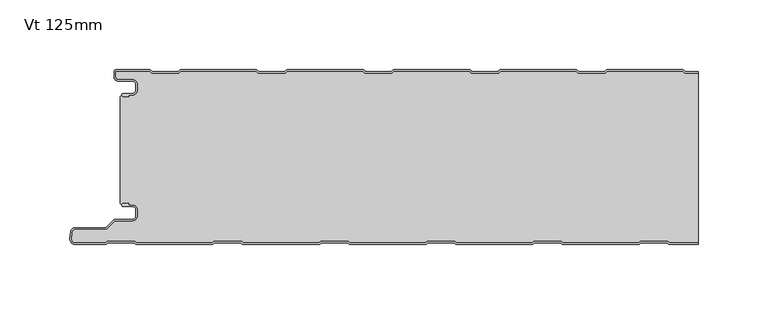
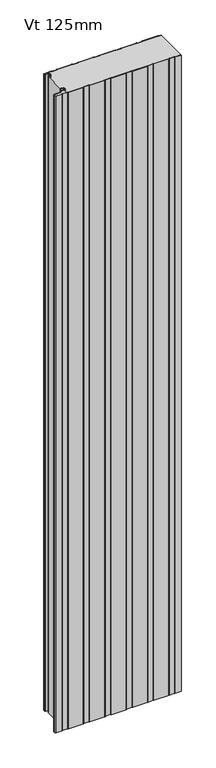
"""IFC4 building model written with IfcOpenShell, lengths in millimetres: plate geometry, KIP-MEX-KSS-1067-R19-CP-Vt-SL_SL : Vt 125mm."""

from ifc_helpers import new_model, si_unit, point, frame, frame_2d, origin, origin_with_axes, place, context, project, spatial, polyline, circle_curve, trimmed, segment, composite_curve, outline, extrude, source, transform, mapped, element, save
from ifc_brep_helpers import plane_surface, cylinder_surface, revolved_surface, advanced_brep


def vt_125mm_fb1efc63(model_context):
    return source(origin(), model_context, "Body", "SolidModel", [
        advanced_brep(
        [(-204.468691, -17.0015159, 2400.0), (-205.4686883, -18.0015191, 2400.0), (-204.468691, -19.0015105, 2400.0), (-200.4684874, -19.0015105, 2400.0), (-200.4684874, -18.0015159, 2400.0), (-197.7762776, -18.0015159, 2400.0), (-194.4762819, -14.7015202, 2400.0), (-194.4762819, -10.301529, 2400.0), (-197.7762774, -7.0015335, 2400.0), (-208.1962563, -7.0015335, 2400.0), (-209.9662505, -5.2315393, 2400.0), (-209.9662505, -0.9999916, 2400.0), (-185.4659738, -0.9999916, 2400.0), (-184.0803312, -2.2002307, 2400.0), (-164.7051649, -2.2002307, 2400.0), (-163.319532, -1.0, 2400.0), (-109.2661166, -1.0, 2400.0), (-107.8804836, -2.2002307, 2400.0), (-88.5053173, -2.2002307, 2400.0), (-87.1196844, -1.0, 2400.0), (-33.066269, -1.0, 2400.0), (-31.680636, -2.2002307, 2400.0), (-12.3054697, -2.2002307, 2400.0), (-10.9198368, -1.0, 2400.0), (43.1335786, -1.0, 2400.0), (44.5192116, -2.2002307, 2400.0), (63.8943779, -2.2002307, 2400.0), (65.2800108, -1.0, 2400.0), (119.3334262, -1.0, 2400.0), (120.7190592, -2.2002307, 2400.0), (140.0942255, -2.2002307, 2400.0), (141.4798584, -1.0, 2400.0), (195.5332738, -1.0, 2400.0), (196.9189068, -2.2002307, 2400.0), (206.4999998, -2.2002307, 2400.0), (206.4999998, -1.2002307, 2400.0), (197.2917872, -1.2002307, 2400.0), (196.3007396, -0.3417885, 2400.0), (195.3841227, 0.0, 2400.0), (141.6290096, 0.0, 2400.0), (140.7123927, -0.3417885, 2400.0), (139.7213451, -1.2002307, 2400.0), (121.0919396, -1.2002307, 2400.0), (120.100892, -0.3417885, 2400.0), (119.1842751, 0.0, 2400.0), (65.429162, 0.0, 2400.0), (64.5125451, -0.3417885, 2400.0), (63.5214975, -1.2002307, 2400.0), (44.892092, -1.2002307, 2400.0), (43.9010444, -0.3417885, 2400.0), (42.9844275, 0.0, 2400.0), (-10.7706856, 0.0, 2400.0), (-11.6873025, -0.3417885, 2400.0), (-12.6783501, -1.2002307, 2400.0), (-31.3077556, -1.2002307, 2400.0), (-32.2988032, -0.3417885, 2400.0), (-33.2154201, 0.0, 2400.0), (-86.9705332, 0.0, 2400.0), (-87.8871501, -0.3417885, 2400.0), (-88.8781977, -1.2002307, 2400.0), (-107.5076032, -1.2002307, 2400.0), (-108.4986508, -0.3417885, 2400.0), (-109.4152677, 0.0, 2400.0), (-163.1703808, 0.0, 2400.0), (-164.0869977, -0.3417885, 2400.0), (-165.0780453, -1.2002307, 2400.0), (-183.7074508, -1.2002307, 2400.0), (-184.6984984, -0.3417885, 2400.0), (-185.6152067, 0.0, 2400.0), (-209.5662543, 8.4e-06, 2400.0), (-210.9662505, -1.3999878, 2400.0), (-210.9662505, -5.2315393, 2400.0), (-208.1962563, -8.0015335, 2400.0), (-197.7762774, -8.0015335, 2400.0), (-195.4762819, -10.301529, 2400.0), (-195.4762819, -14.7015202, 2400.0), (-197.7762776, -17.0015159, 2400.0), (-204.468691, -17.0015159, 0.0), (-197.7762776, -17.0015159, 0.0), (-195.4762819, -14.7015202, 0.0), (-195.4762819, -10.301529, 0.0), (-197.7762774, -8.0015335, 0.0), (-208.1962563, -8.0015335, 0.0), (-210.9662505, -5.2315393, 0.0), (-210.9662505, -1.3999878, 0.0), (-209.5662543, 8.4e-06, 0.0), (-185.6151153, 8.4e-06, 0.0), (-184.6984984, -0.3417885, 0.0), (-183.7074508, -1.2002307, 0.0), (-165.0780453, -1.2002307, 0.0), (-164.0869977, -0.3417885, 0.0), (-163.1703808, 0.0, 0.0), (-109.4152677, 0.0, 0.0), (-108.4986508, -0.3417885, 0.0), (-107.5076032, -1.2002307, 0.0), (-88.8781977, -1.2002307, 0.0), (-87.8871501, -0.3417885, 0.0), (-86.9705332, 0.0, 0.0), (-33.2154201, 0.0, 0.0), (-32.2988032, -0.3417885, 0.0), (-31.3077556, -1.2002307, 0.0), (-12.6783501, -1.2002307, 0.0), (-11.6873025, -0.3417885, 0.0), (-10.7706856, 0.0, 0.0), (42.9844275, 0.0, 0.0), (43.9010444, -0.3417885, 0.0), (44.892092, -1.2002307, 0.0), (63.5214975, -1.2002307, 0.0), (64.5125451, -0.3417885, 0.0), (65.429162, 0.0, 0.0), (119.1842751, 0.0, 0.0), (120.100892, -0.3417885, 0.0), (121.0919396, -1.2002307, 0.0), (139.7213451, -1.2002307, 0.0), (140.7123927, -0.3417885, 0.0), (141.6290096, 0.0, 0.0), (195.3841227, 0.0, 0.0), (196.3007396, -0.3417885, 0.0), (197.2917872, -1.2002307, 0.0), (206.4999998, -1.2002307, 0.0), (206.4999998, -2.2002307, 0.0), (196.9189068, -2.2002307, 0.0), (195.5332738, -1.0, 0.0), (141.4798584, -1.0, 0.0), (140.0942255, -2.2002307, 0.0), (120.7190592, -2.2002307, 0.0), (119.3334262, -1.0, 0.0), (65.2800108, -1.0, 0.0), (63.8943779, -2.2002307, 0.0), (44.5192116, -2.2002307, 0.0), (43.1335786, -1.0, 0.0), (-10.9198368, -1.0, 0.0), (-12.3054697, -2.2002307, 0.0), (-31.680636, -2.2002307, 0.0), (-33.066269, -1.0, 0.0), (-87.1196844, -1.0, 0.0), (-88.5053173, -2.2002307, 0.0), (-107.8804836, -2.2002307, 0.0), (-109.2661166, -1.0, 0.0), (-163.319532, -1.0, 0.0), (-164.7051649, -2.2002307, 0.0), (-184.0803312, -2.2002307, 0.0), (-185.4659738, -0.9999916, 0.0), (-209.9662505, -0.9999916, 0.0), (-209.9662505, -5.2315393, 0.0), (-208.1962563, -7.0015335, 0.0), (-197.7762774, -7.0015335, 0.0), (-194.4762819, -10.301529, 0.0), (-194.4762819, -14.7015202, 0.0), (-197.7762776, -18.0015159, 0.0), (-200.4684874, -18.0015159, 0.0), (-200.4684874, -19.0015105, 0.0), (-204.468691, -19.0015105, 0.0), (-205.4686882, -18.0015192, 0.0)],
        [
            (0, 1, circle_curve(frame((-204.468691, -18.0015132, 2400.0), z_axis=(0.0, 0.0, 1.0), x_axis=(1.0, 0.0, 0.0)), 0.9999973)),
            (1, 2, circle_curve(frame((-204.468691, -18.0015133, 2400.0), z_axis=(0.0, 0.0, 1.0), x_axis=(1.0, 0.0, 0.0)), 0.9999972)),
            (2, 3),
            (3, 4),
            (4, 5),
            (5, 6, circle_curve(frame((-197.7762776, -14.7015202, 2400.0), z_axis=(0.0, 0.0, 1.0), x_axis=(1.0, 0.0, 0.0)), 3.2999957)),
            (6, 7),
            (7, 8, circle_curve(frame((-197.7762774, -10.301529, 2400.0), z_axis=(0.0, 0.0, 1.0), x_axis=(1.0, 0.0, 0.0)), 3.2999955)),
            (8, 9),
            (9, 10, circle_curve(frame((-208.1962563, -5.2315393, 2400.0), z_axis=(0.0, 0.0, -1.0), x_axis=(1.0, 0.0, 0.0)), 1.7699942)),
            (10, 11),
            (11, 12),
            (12, 13),
            (13, 14),
            (14, 15),
            (15, 16),
            (16, 17),
            (17, 18),
            (18, 19),
            (19, 20),
            (20, 21),
            (21, 22),
            (22, 23),
            (23, 24),
            (24, 25),
            (25, 26),
            (26, 27),
            (27, 28),
            (28, 29),
            (29, 30),
            (30, 31),
            (31, 32),
            (32, 33),
            (33, 34),
            (34, 35),
            (35, 36),
            (36, 37),
            (37, 38, circle_curve(frame((195.3841227, -1.3999972, 2400.0), z_axis=(0.0, 0.0, 1.0), x_axis=(1.0, 0.0, 0.0)), 1.3999972)),
            (38, 39),
            (39, 40, circle_curve(frame((141.6290096, -1.3999972, 2400.0), z_axis=(0.0, 0.0, 1.0), x_axis=(1.0, 0.0, 0.0)), 1.3999972)),
            (40, 41),
            (41, 42),
            (42, 43),
            (43, 44, circle_curve(frame((119.1842751, -1.3999972, 2400.0), z_axis=(0.0, 0.0, 1.0), x_axis=(1.0, 0.0, 0.0)), 1.3999972)),
            (44, 45),
            (45, 46, circle_curve(frame((65.429162, -1.3999972, 2400.0), z_axis=(0.0, 0.0, 1.0), x_axis=(1.0, 0.0, 0.0)), 1.3999972)),
            (46, 47),
            (47, 48),
            (48, 49),
            (49, 50, circle_curve(frame((42.9844275, -1.3999972, 2400.0), z_axis=(0.0, 0.0, 1.0), x_axis=(1.0, 0.0, 0.0)), 1.3999972)),
            (50, 51),
            (51, 52, circle_curve(frame((-10.7706856, -1.3999972, 2400.0), z_axis=(0.0, 0.0, 1.0), x_axis=(1.0, 0.0, 0.0)), 1.3999972)),
            (52, 53),
            (53, 54),
            (54, 55),
            (55, 56, circle_curve(frame((-33.2154201, -1.3999972, 2400.0), z_axis=(0.0, 0.0, 1.0), x_axis=(1.0, 0.0, 0.0)), 1.3999972)),
            (56, 57),
            (57, 58, circle_curve(frame((-86.9705332, -1.3999972, 2400.0), z_axis=(0.0, 0.0, 1.0), x_axis=(1.0, 0.0, 0.0)), 1.3999972)),
            (58, 59),
            (59, 60),
            (60, 61),
            (61, 62, circle_curve(frame((-109.4152677, -1.3999972, 2400.0), z_axis=(0.0, 0.0, 1.0), x_axis=(1.0, 0.0, 0.0)), 1.3999972)),
            (62, 63),
            (63, 64, circle_curve(frame((-163.1703808, -1.3999972, 2400.0), z_axis=(0.0, 0.0, 1.0), x_axis=(1.0, 0.0, 0.0)), 1.3999972)),
            (64, 65),
            (65, 66),
            (66, 67),
            (67, 68, circle_curve(frame((-185.6151153, -1.3999972, 2400.0), z_axis=(0.0, 0.0, 1.0), x_axis=(1.0, 0.0, 0.0)), 1.3999972)),
            (68, 69),
            (69, 70, circle_curve(frame((-209.5662543, -1.3999878, 2400.0), z_axis=(0.0, 0.0, 1.0), x_axis=(1.0, 0.0, 0.0)), 1.3999962)),
            (70, 71),
            (71, 72, circle_curve(frame((-208.1962563, -5.2315393, 2400.0), z_axis=(0.0, 0.0, 1.0), x_axis=(1.0, 0.0, 0.0)), 2.7699942)),
            (72, 73),
            (73, 74, circle_curve(frame((-197.7762774, -10.301529, 2400.0), z_axis=(0.0, 0.0, -1.0), x_axis=(1.0, 0.0, 0.0)), 2.2999955)),
            (74, 75),
            (75, 76, circle_curve(frame((-197.7762776, -14.7015202, 2400.0), z_axis=(0.0, 0.0, -1.0), x_axis=(1.0, 0.0, 0.0)), 2.2999957)),
            (76, 0),
            (77, 78),
            (78, 79, circle_curve(frame((-197.7762776, -14.7015202, 0.0), z_axis=(0.0, 0.0, 1.0), x_axis=(1.0, 0.0, 0.0)), 2.2999957)),
            (79, 80),
            (80, 81, circle_curve(frame((-197.7762774, -10.301529, 0.0), z_axis=(0.0, 0.0, 1.0), x_axis=(1.0, 0.0, 0.0)), 2.2999955)),
            (81, 82),
            (82, 83, circle_curve(frame((-208.1962563, -5.2315393, 0.0), z_axis=(0.0, 0.0, -1.0), x_axis=(1.0, 0.0, 0.0)), 2.7699942)),
            (83, 84),
            (84, 85, circle_curve(frame((-209.5662543, -1.3999878, 0.0), z_axis=(0.0, 0.0, -1.0), x_axis=(1.0, 0.0, 0.0)), 1.3999962)),
            (85, 86),
            (86, 87, circle_curve(frame((-185.6151153, -1.3999972, 0.0), z_axis=(0.0, 0.0, -1.0), x_axis=(1.0, 0.0, 0.0)), 1.3999972)),
            (87, 88),
            (88, 89),
            (89, 90),
            (90, 91, circle_curve(frame((-163.1703808, -1.3999972, 0.0), z_axis=(0.0, 0.0, -1.0), x_axis=(1.0, 0.0, 0.0)), 1.3999972)),
            (91, 92),
            (92, 93, circle_curve(frame((-109.4152677, -1.3999972, 0.0), z_axis=(0.0, 0.0, -1.0), x_axis=(1.0, 0.0, 0.0)), 1.3999972)),
            (93, 94),
            (94, 95),
            (95, 96),
            (96, 97, circle_curve(frame((-86.9705332, -1.3999972, 0.0), z_axis=(0.0, 0.0, -1.0), x_axis=(1.0, 0.0, 0.0)), 1.3999972)),
            (97, 98),
            (98, 99, circle_curve(frame((-33.2154201, -1.3999972, 0.0), z_axis=(0.0, 0.0, -1.0), x_axis=(1.0, 0.0, 0.0)), 1.3999972)),
            (99, 100),
            (100, 101),
            (101, 102),
            (102, 103, circle_curve(frame((-10.7706856, -1.3999972, 0.0), z_axis=(0.0, 0.0, -1.0), x_axis=(1.0, 0.0, 0.0)), 1.3999972)),
            (103, 104),
            (104, 105, circle_curve(frame((42.9844275, -1.3999972, 0.0), z_axis=(0.0, 0.0, -1.0), x_axis=(1.0, 0.0, 0.0)), 1.3999972)),
            (105, 106),
            (106, 107),
            (107, 108),
            (108, 109, circle_curve(frame((65.429162, -1.3999972, 0.0), z_axis=(0.0, 0.0, -1.0), x_axis=(1.0, 0.0, 0.0)), 1.3999972)),
            (109, 110),
            (110, 111, circle_curve(frame((119.1842751, -1.3999972, 0.0), z_axis=(0.0, 0.0, -1.0), x_axis=(1.0, 0.0, 0.0)), 1.3999972)),
            (111, 112),
            (112, 113),
            (113, 114),
            (114, 115, circle_curve(frame((141.6290096, -1.3999972, 0.0), z_axis=(0.0, 0.0, -1.0), x_axis=(1.0, 0.0, 0.0)), 1.3999972)),
            (115, 116),
            (116, 117, circle_curve(frame((195.3841227, -1.3999972, 0.0), z_axis=(0.0, 0.0, -1.0), x_axis=(1.0, 0.0, 0.0)), 1.3999972)),
            (117, 118),
            (118, 119),
            (119, 120),
            (120, 121),
            (121, 122),
            (122, 123),
            (123, 124),
            (124, 125),
            (125, 126),
            (126, 127),
            (127, 128),
            (128, 129),
            (129, 130),
            (130, 131),
            (131, 132),
            (132, 133),
            (133, 134),
            (134, 135),
            (135, 136),
            (136, 137),
            (137, 138),
            (138, 139),
            (139, 140),
            (140, 141),
            (141, 142),
            (142, 143),
            (143, 144),
            (144, 145, circle_curve(frame((-208.1962563, -5.2315393, 0.0), z_axis=(0.0, 0.0, 1.0), x_axis=(1.0, 0.0, 0.0)), 1.7699942)),
            (145, 146),
            (146, 147, circle_curve(frame((-197.7762774, -10.301529, 0.0), z_axis=(0.0, 0.0, -1.0), x_axis=(1.0, 0.0, 0.0)), 3.2999955)),
            (147, 148),
            (148, 149, circle_curve(frame((-197.7762776, -14.7015202, 0.0), z_axis=(0.0, 0.0, -1.0), x_axis=(1.0, 0.0, 0.0)), 3.2999957)),
            (149, 150),
            (150, 151),
            (151, 152),
            (152, 153, circle_curve(frame((-204.468691, -18.0015133, 0.0), z_axis=(0.0, 0.0, -1.0), x_axis=(1.0, 0.0, 0.0)), 0.9999972)),
            (153, 77, circle_curve(frame((-204.468691, -18.0015132, 0.0), z_axis=(0.0, 0.0, -1.0), x_axis=(1.0, 0.0, 0.0)), 0.9999973)),
            (76, 78),
            (77, 0),
            (75, 79),
            (74, 80),
            (73, 81),
            (72, 82),
            (71, 83),
            (70, 84),
            (69, 85),
            (68, 86),
            (67, 87),
            (66, 88),
            (65, 89),
            (64, 90),
            (63, 91),
            (62, 92),
            (61, 93),
            (60, 94),
            (59, 95),
            (58, 96),
            (57, 97),
            (56, 98),
            (55, 99),
            (54, 100),
            (53, 101),
            (52, 102),
            (51, 103),
            (50, 104),
            (49, 105),
            (48, 106),
            (47, 107),
            (46, 108),
            (45, 109),
            (44, 110),
            (43, 111),
            (42, 112),
            (41, 113),
            (40, 114),
            (39, 115),
            (38, 116),
            (37, 117),
            (36, 118),
            (35, 119),
            (120, 34),
            (33, 121),
            (32, 122),
            (31, 123),
            (30, 124),
            (29, 125),
            (28, 126),
            (27, 127),
            (26, 128),
            (25, 129),
            (24, 130),
            (23, 131),
            (22, 132),
            (21, 133),
            (20, 134),
            (19, 135),
            (18, 136),
            (17, 137),
            (16, 138),
            (15, 139),
            (14, 140),
            (13, 141),
            (12, 142),
            (11, 143),
            (10, 144),
            (9, 145),
            (8, 146),
            (7, 147),
            (6, 148),
            (5, 149),
            (4, 150),
            (3, 151),
            (2, 152),
            (1, 153),
        ],
        [
            plane_surface(frame((326.9000002, 0.0, 2400.0), z_axis=(0.0, 0.0, 1.0), x_axis=(0.0, 1.0, 0.0))),
            plane_surface(frame((326.9000002, 0.0, 0.0), z_axis=(0.0, 0.0, -1.0), x_axis=(0.0, 1.0, 0.0))),
            plane_surface(frame((-204.468691, -17.0015159, 2400.0), z_axis=(0.0, 1.0, 0.0), x_axis=(0.0, 0.0, -1.0))),
            revolved_surface(polyline([(-195.47628189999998, -14.7015202, 0.0), (-195.47628189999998, -14.7015202, 2400.0)]), (-197.7762776, -14.7015202, 2400.0), (0.0, 0.0, -1.0)),
            plane_surface(frame((-195.4762819, -14.7015202, 2400.0), z_axis=(-1.0, 0.0, 0.0), x_axis=(0.0, 0.0, -1.0))),
            revolved_surface(polyline([(-195.4762819, -10.301529, 0.0), (-195.4762819, -10.301529, 2400.0)]), (-197.7762774, -10.301529, 2400.0), (0.0, 0.0, -1.0)),
            plane_surface(frame((-197.7762774, -8.0015335, 2400.0), z_axis=(0.0, -1.0, 0.0), x_axis=(0.0, 0.0, -1.0))),
            cylinder_surface(frame((-208.1962563, -5.2315393, 2400.0), z_axis=(0.0, 0.0, 1.0), x_axis=(1.0, 0.0, 0.0)), 2.7699942),
            plane_surface(frame((-210.9662505, -5.2315393, 2400.0), z_axis=(-1.0, 0.0, 0.0), x_axis=(0.0, 0.0, -1.0))),
            cylinder_surface(frame((-209.5662543, -1.3999878, 2400.0), z_axis=(0.0, 0.0, 1.0), x_axis=(1.0, 0.0, 0.0)), 1.3999962),
            plane_surface(frame((-209.5662543, 8.4e-06, 2400.0), z_axis=(0.0, 1.0, 0.0), x_axis=(0.0, 0.0, -1.0))),
            cylinder_surface(frame((-185.6151153, -1.3999972, 2400.0), z_axis=(0.0, 0.0, 1.0), x_axis=(1.0, 0.0, 0.0)), 1.3999972),
            plane_surface(frame((-184.6984984, -0.3417885, 2400.0), z_axis=(0.6547276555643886, 0.755864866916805, 0.0), x_axis=(0.0, 0.0, -1.0))),
            plane_surface(frame((-174.3927481, -1.2002307, 2400.0), z_axis=(0.0, 1.0, 0.0), x_axis=(0.0, 0.0, -1.0))),
            plane_surface(frame((-165.0780453, -1.2002307, 2400.0), z_axis=(-0.6547276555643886, 0.755864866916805, 0.0), x_axis=(0.0, 0.0, -1.0))),
            cylinder_surface(frame((-163.1703808, -1.3999972, 2400.0), z_axis=(0.0, 0.0, 1.0), x_axis=(1.0, 0.0, 0.0)), 1.3999972),
            plane_surface(frame((-163.1703808, 0.0, 2400.0), z_axis=(0.0, 1.0, 0.0), x_axis=(0.0, 0.0, -1.0))),
            cylinder_surface(frame((-109.4152677, -1.3999972, 2400.0), z_axis=(0.0, 0.0, 1.0), x_axis=(1.0, 0.0, 0.0)), 1.3999972),
            plane_surface(frame((-108.4986508, -0.3417885, 2400.0), z_axis=(0.6547276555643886, 0.755864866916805, 0.0), x_axis=(0.0, 0.0, -1.0))),
            plane_surface(frame((-98.1929005, -1.2002307, 2400.0), z_axis=(0.0, 1.0, 0.0), x_axis=(0.0, 0.0, -1.0))),
            plane_surface(frame((-88.8781977, -1.2002307, 2400.0), z_axis=(-0.6547276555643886, 0.755864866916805, 0.0), x_axis=(0.0, 0.0, -1.0))),
            cylinder_surface(frame((-86.9705332, -1.3999972, 2400.0), z_axis=(0.0, 0.0, 1.0), x_axis=(1.0, 0.0, 0.0)), 1.3999972),
            plane_surface(frame((-86.9705332, 0.0, 2400.0), z_axis=(0.0, 1.0, 0.0), x_axis=(0.0, 0.0, -1.0))),
            cylinder_surface(frame((-33.2154201, -1.3999972, 2400.0), z_axis=(0.0, 0.0, 1.0), x_axis=(1.0, 0.0, 0.0)), 1.3999972),
            plane_surface(frame((-32.2988032, -0.3417885, 2400.0), z_axis=(0.6547276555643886, 0.755864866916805, 0.0), x_axis=(0.0, 0.0, -1.0))),
            plane_surface(frame((-21.9930529, -1.2002307, 2400.0), z_axis=(0.0, 1.0, 0.0), x_axis=(0.0, 0.0, -1.0))),
            plane_surface(frame((-12.6783501, -1.2002307, 2400.0), z_axis=(-0.6547276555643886, 0.755864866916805, 0.0), x_axis=(0.0, 0.0, -1.0))),
            cylinder_surface(frame((-10.7706856, -1.3999972, 2400.0), z_axis=(0.0, 0.0, 1.0), x_axis=(1.0, 0.0, 0.0)), 1.3999972),
            plane_surface(frame((-10.7706856, 0.0, 2400.0), z_axis=(0.0, 1.0, 0.0), x_axis=(0.0, 0.0, -1.0))),
            cylinder_surface(frame((42.9844275, -1.3999972, 2400.0), z_axis=(0.0, 0.0, 1.0), x_axis=(1.0, 0.0, 0.0)), 1.3999972),
            plane_surface(frame((43.9010444, -0.3417885, 2400.0), z_axis=(0.6547276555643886, 0.755864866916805, 0.0), x_axis=(0.0, 0.0, -1.0))),
            plane_surface(frame((54.2067947, -1.2002307, 2400.0), z_axis=(0.0, 1.0, 0.0), x_axis=(0.0, 0.0, -1.0))),
            plane_surface(frame((63.5214975, -1.2002307, 2400.0), z_axis=(-0.6547276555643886, 0.755864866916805, 0.0), x_axis=(0.0, 0.0, -1.0))),
            cylinder_surface(frame((65.429162, -1.3999972, 2400.0), z_axis=(0.0, 0.0, 1.0), x_axis=(1.0, 0.0, 0.0)), 1.3999972),
            plane_surface(frame((65.429162, 0.0, 2400.0), z_axis=(0.0, 1.0, 0.0), x_axis=(0.0, 0.0, -1.0))),
            cylinder_surface(frame((119.1842751, -1.3999972, 2400.0), z_axis=(0.0, 0.0, 1.0), x_axis=(1.0, 0.0, 0.0)), 1.3999972),
            plane_surface(frame((120.100892, -0.3417885, 2400.0), z_axis=(0.6547276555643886, 0.755864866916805, 0.0), x_axis=(0.0, 0.0, -1.0))),
            plane_surface(frame((130.4066423, -1.2002307, 2400.0), z_axis=(0.0, 1.0, 0.0), x_axis=(0.0, 0.0, -1.0))),
            plane_surface(frame((139.7213451, -1.2002307, 2400.0), z_axis=(-0.6547276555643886, 0.755864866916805, 0.0), x_axis=(0.0, 0.0, -1.0))),
            cylinder_surface(frame((141.6290096, -1.3999972, 2400.0), z_axis=(0.0, 0.0, 1.0), x_axis=(1.0, 0.0, 0.0)), 1.3999972),
            plane_surface(frame((141.6290096, 0.0, 2400.0), z_axis=(0.0, 1.0, 0.0), x_axis=(0.0, 0.0, -1.0))),
            cylinder_surface(frame((195.3841227, -1.3999972, 2400.0), z_axis=(0.0, 0.0, 1.0), x_axis=(1.0, 0.0, 0.0)), 1.3999972),
            plane_surface(frame((196.3007396, -0.3417885, 2400.0), z_axis=(0.6547276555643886, 0.755864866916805, 0.0), x_axis=(0.0, 0.0, -1.0))),
            plane_surface(frame((206.6064899, -1.2002307, 2400.0), z_axis=(0.0, 1.0, 0.0), x_axis=(0.0, 0.0, -1.0))),
            plane_surface(frame((216.2940731, -2.2002307, 2400.0), z_axis=(0.0, -1.0, 0.0), x_axis=(0.0, 0.0, -1.0))),
            plane_surface(frame((196.9189068, -2.2002307, 2400.0), z_axis=(-0.6547276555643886, -0.755864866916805, 0.0), x_axis=(0.0, 0.0, -1.0))),
            plane_surface(frame((195.5332738, -1.0, 2400.0), z_axis=(0.0, -1.0, 0.0), x_axis=(0.0, 0.0, -1.0))),
            plane_surface(frame((141.4798584, -1.0, 2400.0), z_axis=(0.6547276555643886, -0.755864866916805, 0.0), x_axis=(0.0, 0.0, -1.0))),
            plane_surface(frame((140.0942255, -2.2002307, 2400.0), z_axis=(0.0, -1.0, 0.0), x_axis=(0.0, 0.0, -1.0))),
            plane_surface(frame((120.7190592, -2.2002307, 2400.0), z_axis=(-0.6547276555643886, -0.755864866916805, 0.0), x_axis=(0.0, 0.0, -1.0))),
            plane_surface(frame((119.3334262, -1.0, 2400.0), z_axis=(0.0, -1.0, 0.0), x_axis=(0.0, 0.0, -1.0))),
            plane_surface(frame((65.2800108, -1.0, 2400.0), z_axis=(0.6547276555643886, -0.755864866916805, 0.0), x_axis=(0.0, 0.0, -1.0))),
            plane_surface(frame((63.8943779, -2.2002307, 2400.0), z_axis=(0.0, -1.0, 0.0), x_axis=(0.0, 0.0, -1.0))),
            plane_surface(frame((44.5192116, -2.2002307, 2400.0), z_axis=(-0.6547276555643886, -0.755864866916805, 0.0), x_axis=(0.0, 0.0, -1.0))),
            plane_surface(frame((43.1335786, -1.0, 2400.0), z_axis=(0.0, -1.0, 0.0), x_axis=(0.0, 0.0, -1.0))),
            plane_surface(frame((-10.9198368, -1.0, 2400.0), z_axis=(0.6547276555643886, -0.755864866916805, 0.0), x_axis=(0.0, 0.0, -1.0))),
            plane_surface(frame((-12.3054697, -2.2002307, 2400.0), z_axis=(0.0, -1.0, 0.0), x_axis=(0.0, 0.0, -1.0))),
            plane_surface(frame((-31.680636, -2.2002307, 2400.0), z_axis=(-0.6547276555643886, -0.755864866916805, 0.0), x_axis=(0.0, 0.0, -1.0))),
            plane_surface(frame((-33.066269, -1.0, 2400.0), z_axis=(0.0, -1.0, 0.0), x_axis=(0.0, 0.0, -1.0))),
            plane_surface(frame((-87.1196844, -1.0, 2400.0), z_axis=(0.6547276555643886, -0.755864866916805, 0.0), x_axis=(0.0, 0.0, -1.0))),
            plane_surface(frame((-88.5053173, -2.2002307, 2400.0), z_axis=(0.0, -1.0, 0.0), x_axis=(0.0, 0.0, -1.0))),
            plane_surface(frame((-107.8804836, -2.2002307, 2400.0), z_axis=(-0.6547276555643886, -0.755864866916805, 0.0), x_axis=(0.0, 0.0, -1.0))),
            plane_surface(frame((-109.2661166, -1.0, 2400.0), z_axis=(0.0, -1.0, 0.0), x_axis=(0.0, 0.0, -1.0))),
            plane_surface(frame((-163.319532, -1.0, 2400.0), z_axis=(0.6547276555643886, -0.755864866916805, 0.0), x_axis=(0.0, 0.0, -1.0))),
            plane_surface(frame((-164.7051649, -2.2002307, 2400.0), z_axis=(0.0, -1.0, 0.0), x_axis=(0.0, 0.0, -1.0))),
            plane_surface(frame((-184.0803312, -2.2002307, 2400.0), z_axis=(-0.6547276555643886, -0.755864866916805, 0.0), x_axis=(0.0, 0.0, -1.0))),
            plane_surface(frame((-185.4659738, -0.9999916, 2400.0), z_axis=(0.0, -1.0, 0.0), x_axis=(0.0, 0.0, -1.0))),
            plane_surface(frame((-209.9662505, -0.9999916, 2400.0), z_axis=(1.0, 0.0, 0.0), x_axis=(0.0, 0.0, -1.0))),
            revolved_surface(polyline([(-206.42626209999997, -5.2315393, 0.0), (-206.42626209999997, -5.2315393, 2400.0)]), (-208.1962563, -5.2315393, 2400.0), (0.0, 0.0, -1.0)),
            plane_surface(frame((-208.1962563, -7.0015335, 2400.0), z_axis=(0.0, 1.0, 0.0), x_axis=(0.0, 0.0, -1.0))),
            cylinder_surface(frame((-197.7762774, -10.301529, 2400.0), z_axis=(0.0, 0.0, 1.0), x_axis=(1.0, 0.0, 0.0)), 3.2999955),
            plane_surface(frame((-194.4762819, -10.301529, 2400.0), z_axis=(1.0, 0.0, 0.0), x_axis=(0.0, 0.0, -1.0))),
            cylinder_surface(frame((-197.7762776, -14.7015202, 2400.0), z_axis=(0.0, 0.0, 1.0), x_axis=(1.0, 0.0, 0.0)), 3.2999957),
            plane_surface(frame((-197.7762776, -18.0015159, 2400.0), z_axis=(0.0, -1.0, 0.0), x_axis=(0.0, 0.0, -1.0))),
            plane_surface(frame((-200.4684874, -18.0015159, 2400.0), z_axis=(1.0, 0.0, 0.0), x_axis=(0.0, 0.0, -1.0))),
            plane_surface(frame((-200.4684874, -19.0015105, 2400.0), z_axis=(0.0, -1.0, 0.0), x_axis=(0.0, 0.0, -1.0))),
            cylinder_surface(frame((-204.468691, -18.0015133, 2400.0), z_axis=(0.0, 0.0, 1.0), x_axis=(1.0, 0.0, 0.0)), 0.9999972),
            cylinder_surface(frame((-204.468691, -18.0015132, 2400.0), z_axis=(0.0, 0.0, 1.0), x_axis=(1.0, 0.0, 0.0)), 0.9999973),
            plane_surface(frame((206.4999998, -135.0, 2400.0), z_axis=(1.0, 0.0, 0.0), x_axis=(0.0, 0.0, -1.0))),
        ],
        [
            (0, [[1, 2, 3, 4, 5, 6, 7, 8, 9, 10, 11, 12, 13, 14, 15, 16, 17, 18, 19, 20, 21, 22, 23, 24, 25, 26, 27, 28, 29, 30, 31, 32, 33, 34, 35, 36, 37, 38, 39, 40, 41, 42, 43, 44, 45, 46, 47, 48, 49, 50, 51, 52, 53, 54, 55, 56, 57, 58, 59, 60, 61, 62, 63, 64, 65, 66, 67, 68, 69, 70, 71, 72, 73, 74, 75, 76, 77]]),
            (1, [[78, 79, 80, 81, 82, 83, 84, 85, 86, 87, 88, 89, 90, 91, 92, 93, 94, 95, 96, 97, 98, 99, 100, 101, 102, 103, 104, 105, 106, 107, 108, 109, 110, 111, 112, 113, 114, 115, 116, 117, 118, 119, 120, 121, 122, 123, 124, 125, 126, 127, 128, 129, 130, 131, 132, 133, 134, 135, 136, 137, 138, 139, 140, 141, 142, 143, 144, 145, 146, 147, 148, 149, 150, 151, 152, 153, 154]]),
            (2, [[155, -78, 156, -77]]),
            (3, [[157, -79, -155, -76]]),
            (4, [[158, -80, -157, -75]]),
            (5, [[159, -81, -158, -74]]),
            (6, [[160, -82, -159, -73]]),
            (7, [[161, -83, -160, -72]]),
            (8, [[162, -84, -161, -71]]),
            (9, [[163, -85, -162, -70]]),
            (10, [[164, -86, -163, -69]]),
            (11, [[165, -87, -164, -68]]),
            (12, [[166, -88, -165, -67]]),
            (13, [[167, -89, -166, -66]]),
            (14, [[168, -90, -167, -65]]),
            (15, [[169, -91, -168, -64]]),
            (16, [[170, -92, -169, -63]]),
            (17, [[171, -93, -170, -62]]),
            (18, [[172, -94, -171, -61]]),
            (19, [[173, -95, -172, -60]]),
            (20, [[174, -96, -173, -59]]),
            (21, [[175, -97, -174, -58]]),
            (22, [[176, -98, -175, -57]]),
            (23, [[177, -99, -176, -56]]),
            (24, [[178, -100, -177, -55]]),
            (25, [[179, -101, -178, -54]]),
            (26, [[180, -102, -179, -53]]),
            (27, [[181, -103, -180, -52]]),
            (28, [[182, -104, -181, -51]]),
            (29, [[183, -105, -182, -50]]),
            (30, [[184, -106, -183, -49]]),
            (31, [[185, -107, -184, -48]]),
            (32, [[186, -108, -185, -47]]),
            (33, [[187, -109, -186, -46]]),
            (34, [[188, -110, -187, -45]]),
            (35, [[189, -111, -188, -44]]),
            (36, [[190, -112, -189, -43]]),
            (37, [[191, -113, -190, -42]]),
            (38, [[192, -114, -191, -41]]),
            (39, [[193, -115, -192, -40]]),
            (40, [[194, -116, -193, -39]]),
            (41, [[195, -117, -194, -38]]),
            (42, [[196, -118, -195, -37]]),
            (43, [[-36, 197, -119, -196]]),
            (44, [[-121, 198, -34, 199]]),
            (45, [[200, -122, -199, -33]]),
            (46, [[201, -123, -200, -32]]),
            (47, [[202, -124, -201, -31]]),
            (48, [[203, -125, -202, -30]]),
            (49, [[204, -126, -203, -29]]),
            (50, [[205, -127, -204, -28]]),
            (51, [[206, -128, -205, -27]]),
            (52, [[207, -129, -206, -26]]),
            (53, [[208, -130, -207, -25]]),
            (54, [[209, -131, -208, -24]]),
            (55, [[210, -132, -209, -23]]),
            (56, [[211, -133, -210, -22]]),
            (57, [[212, -134, -211, -21]]),
            (58, [[213, -135, -212, -20]]),
            (59, [[214, -136, -213, -19]]),
            (60, [[215, -137, -214, -18]]),
            (61, [[216, -138, -215, -17]]),
            (62, [[217, -139, -216, -16]]),
            (63, [[218, -140, -217, -15]]),
            (64, [[219, -141, -218, -14]]),
            (65, [[220, -142, -219, -13]]),
            (66, [[221, -143, -220, -12]]),
            (67, [[222, -144, -221, -11]]),
            (68, [[223, -145, -222, -10]]),
            (69, [[224, -146, -223, -9]]),
            (70, [[225, -147, -224, -8]]),
            (71, [[226, -148, -225, -7]]),
            (72, [[227, -149, -226, -6]]),
            (73, [[228, -150, -227, -5]]),
            (74, [[229, -151, -228, -4]]),
            (75, [[230, -152, -229, -3]]),
            (76, [[231, -153, -230, -2]]),
            (77, [[-156, -154, -231, -1]]),
            (78, [[-198, -120, -197, -35]]),
        ],
    ),
        extrude(outline(composite_curve([segment(polyline([(-217.1415932, -125.0006394), (-238.9521175, -125.0006394)]), True, "CONTINUOUS"), segment(trimmed(circle_curve(frame_2d((-238.9521175, -121.4304001)), 3.5702393), [point((-238.9521175, -125.0006394))], [point((-242.5087619, -121.1191297))], False, "CARTESIAN"), True, "CONTINUOUS"), segment(polyline([(-242.5087619, -121.1191297), (-242.0690674, -116.0950831)]), True, "CONTINUOUS"), segment(trimmed(circle_curve(frame_2d((-238.4198391, -116.7058842)), 3.6999926), [point((-242.0690674, -116.0950831))], [point((-238.4198391, -113.0058916))], False, "CARTESIAN"), True, "CONTINUOUS"), segment(polyline([(-238.4198391, -113.0058916), (-217.2773995, -113.0058916)]), True, "CONTINUOUS"), segment(trimmed(circle_curve(frame_2d((-217.2773995, -111.7058942)), 1.2999974), [point((-217.2773995, -113.0058916))], [point((-216.3581626, -112.6251312))], True, "CARTESIAN"), True, "CONTINUOUS"), segment(polyline([(-216.3581626, -112.6251312), (-211.5297451, -107.7967137)]), True, "CONTINUOUS"), segment(trimmed(circle_curve(frame_2d((-209.6205606, -109.7058982)), 2.6999946), [point((-211.5297451, -107.7967137))], [point((-209.6205606, -107.0059036))], False, "CARTESIAN"), True, "CONTINUOUS"), segment(polyline([(-209.6205606, -107.0059036), (-197.8096715, -107.0059036)]), True, "CONTINUOUS"), segment(trimmed(circle_curve(frame_2d((-197.8096715, -104.6559083)), 2.3499953), [point((-197.8096715, -107.0059036))], [point((-195.4596762, -104.6559083))], True, "CARTESIAN"), True, "CONTINUOUS"), segment(polyline([(-195.4596762, -104.6559083), (-195.4596762, -100.2559171)]), True, "CONTINUOUS"), segment(trimmed(circle_curve(frame_2d((-197.8096715, -100.2559171)), 2.3499953), [point((-195.4596762, -100.2559171))], [point((-197.8096715, -97.9059218))], True, "CARTESIAN"), True, "CONTINUOUS"), segment(polyline([(-197.8096715, -97.9059218), (-204.3289777, -97.9059218)]), True, "CONTINUOUS"), segment(trimmed(circle_curve(frame_2d((-204.2686906, -96.7074396)), 1.1999976), [point((-204.3289777, -97.9059218))], [point((-205.4683, -96.6769177))], False, "CARTESIAN"), True, "CONTINUOUS"), segment(trimmed(circle_curve(frame_2d((-204.2686906, -96.7074396)), 1.1999976), [point((-205.4683, -96.6769177))], [point((-204.267176, -95.5074429))], False, "CARTESIAN"), True, "CONTINUOUS"), segment(polyline([(-204.267176, -95.5074429), (-200.5087826, -95.5074429), (-200.5087826, -96.9059218), (-197.8096715, -96.9059218)]), True, "CONTINUOUS"), segment(trimmed(circle_curve(frame_2d((-197.8096715, -100.2559171)), 3.3499953), [point((-197.8096715, -96.9059218))], [point((-194.4596762, -100.2559171))], False, "CARTESIAN"), True, "CONTINUOUS"), segment(polyline([(-194.4596762, -100.2559171), (-194.4596762, -104.6559083)]), True, "CONTINUOUS"), segment(trimmed(circle_curve(frame_2d((-197.8096715, -104.6559083)), 3.3499953), [point((-194.4596762, -104.6559083))], [point((-197.8096715, -108.0059036))], False, "CARTESIAN"), True, "CONTINUOUS"), segment(polyline([(-197.8096715, -108.0059036), (-209.6205606, -108.0059036)]), True, "CONTINUOUS"), segment(trimmed(circle_curve(frame_2d((-209.6205606, -109.7058982)), 1.6999946), [point((-209.6205606, -108.0059036))], [point((-210.8226383, -108.5038205))], True, "CARTESIAN"), True, "CONTINUOUS"), segment(polyline([(-210.8226383, -108.5038205), (-216.3247094, -114.0058916), (-238.4198391, -114.0058916)]), True, "CONTINUOUS"), segment(trimmed(circle_curve(frame_2d((-238.4198391, -116.7058842)), 2.6999926), [point((-238.4198391, -114.0058916))], [point((-241.0765707, -116.2244936))], True, "CARTESIAN"), True, "CONTINUOUS"), segment(polyline([(-241.0765707, -116.2244936), (-241.5125697, -121.2063145)]), True, "CONTINUOUS"), segment(trimmed(circle_curve(frame_2d((-238.9521175, -121.4304001)), 2.5702393), [point((-241.5125697, -121.2063145))], [point((-238.9521175, -124.0006394))], True, "CARTESIAN"), True, "CONTINUOUS"), segment(polyline([(-238.9521175, -124.0006394), (-216.979096, -124.0006394), (-215.7791275, -122.8006709), (-196.059715, -122.8006709), (-194.8594843, -124.0009016), (-140.7793525, -124.0009016), (-139.5791218, -122.8006709), (-119.8597093, -122.8006709), (-118.6594786, -124.0009016), (-64.5793468, -124.0009016), (-63.3791161, -122.8006709), (-43.6597036, -122.8006709), (-42.4594729, -124.0009016), (11.6206589, -124.0009016), (12.8208896, -122.8006709), (32.5403021, -122.8006709), (33.7405328, -124.0009016), (87.8206646, -124.0009016), (89.0208953, -122.8006709), (108.7403078, -122.8006709), (109.9405385, -124.0009016), (164.0206703, -124.0009016), (165.220901, -122.8006709), (184.9403135, -122.8006709), (186.1405442, -124.0009016), (206.4999998, -124.0009016), (206.4999998, -125.0009016), (186.3099792, -125.0009016)]), True, "CONTINUOUS"), segment(trimmed(circle_curve(frame_2d((186.3023258, -123.6009253)), 1.3999972), [point((186.3099792, -125.0009016))], [point((185.258275, -124.5336365))], False, "CARTESIAN"), True, "CONTINUOUS"), segment(polyline([(185.258275, -124.5336365), (184.5253094, -123.8006709), (165.6346402, -123.8006709), (164.9016956, -124.5336156)]), True, "CONTINUOUS"), segment(trimmed(circle_curve(frame_2d((163.8576448, -123.6009044)), 1.3999972), [point((164.9016956, -124.5336156))], [point((163.8576448, -125.0009016))], False, "CARTESIAN"), True, "CONTINUOUS"), segment(polyline([(163.8576448, -125.0009016), (110.1101316, -125.0009016)]), True, "CONTINUOUS"), segment(trimmed(circle_curve(frame_2d((110.1024782, -123.6009253)), 1.3999972), [point((110.1101316, -125.0009016))], [point((109.0584274, -124.5336365))], False, "CARTESIAN"), True, "CONTINUOUS"), segment(polyline([(109.0584274, -124.5336365), (108.3254618, -123.8006709), (89.4347926, -123.8006709), (88.701848, -124.5336156)]), True, "CONTINUOUS"), segment(trimmed(circle_curve(frame_2d((87.6577972, -123.6009044)), 1.3999972), [point((88.701848, -124.5336156))], [point((87.6577972, -125.0009016))], False, "CARTESIAN"), True, "CONTINUOUS"), segment(polyline([(87.6577972, -125.0009016), (33.910284, -125.0009016)]), True, "CONTINUOUS"), segment(trimmed(circle_curve(frame_2d((33.9026306, -123.6009253)), 1.3999972), [point((33.910284, -125.0009016))], [point((32.8585798, -124.5336365))], False, "CARTESIAN"), True, "CONTINUOUS"), segment(polyline([(32.8585798, -124.5336365), (32.1256142, -123.8006709), (13.234945, -123.8006709), (12.5020004, -124.5336156)]), True, "CONTINUOUS"), segment(trimmed(circle_curve(frame_2d((11.4579496, -123.6009044)), 1.3999972), [point((12.5020004, -124.5336156))], [point((11.4579496, -125.0009016))], False, "CARTESIAN"), True, "CONTINUOUS"), segment(polyline([(11.4579496, -125.0009016), (-42.2895636, -125.0009016)]), True, "CONTINUOUS"), segment(trimmed(circle_curve(frame_2d((-42.297217, -123.6009253)), 1.3999972), [point((-42.2895636, -125.0009016))], [point((-43.3412678, -124.5336365))], False, "CARTESIAN"), True, "CONTINUOUS"), segment(polyline([(-43.3412678, -124.5336365), (-44.0742334, -123.8006709), (-62.9649026, -123.8006709), (-63.6978472, -124.5336156)]), True, "CONTINUOUS"), segment(trimmed(circle_curve(frame_2d((-64.741898, -123.6009044)), 1.3999972), [point((-63.6978472, -124.5336156))], [point((-64.741898, -125.0009016))], False, "CARTESIAN"), True, "CONTINUOUS"), segment(polyline([(-64.741898, -125.0009016), (-118.4894112, -125.0009016)]), True, "CONTINUOUS"), segment(trimmed(circle_curve(frame_2d((-118.4970646, -123.6009253)), 1.3999972), [point((-118.4894112, -125.0009016))], [point((-119.5411154, -124.5336365))], False, "CARTESIAN"), True, "CONTINUOUS"), segment(polyline([(-119.5411154, -124.5336365), (-120.274081, -123.8006709), (-139.1647502, -123.8006709), (-139.8976948, -124.5336156)]), True, "CONTINUOUS"), segment(trimmed(circle_curve(frame_2d((-140.9417456, -123.6009044)), 1.3999972), [point((-139.8976948, -124.5336156))], [point((-140.9417456, -125.0009016))], False, "CARTESIAN"), True, "CONTINUOUS"), segment(polyline([(-140.9417456, -125.0009016), (-194.6892588, -125.0009016)]), True, "CONTINUOUS"), segment(trimmed(circle_curve(frame_2d((-194.6969122, -123.6009253)), 1.3999972), [point((-194.6892588, -125.0009016))], [point((-195.740963, -124.5336365))], False, "CARTESIAN"), True, "CONTINUOUS"), segment(polyline([(-195.740963, -124.5336365), (-196.4739286, -123.8006709), (-215.3649139, -123.8006709), (-216.0976402, -124.5333971)]), True, "CONTINUOUS"), segment(trimmed(circle_curve(frame_2d((-217.1415932, -123.6007733)), 1.3998661), [point((-216.0976402, -124.5333971))], [point((-217.1415932, -125.0006394))], False, "CARTESIAN"), True, "CONTINUOUS")], self_intersect=False)), origin_with_axes(), (0.0, 0.0, 1.0), 2400.0),
        extrude(outline(composite_curve([segment(polyline([(-205.4683, -96.670875), (-206.4999998, -95.6391751), (-206.4999998, -19.0328308), (-205.4686882, -18.0015192)]), True, "CONTINUOUS"), segment(trimmed(circle_curve(frame_2d((-204.468691, -18.0015133)), 0.9999972), [point((-205.4686882, -18.0015192))], [point((-204.468691, -19.0015105))], True, "CARTESIAN"), True, "CONTINUOUS"), segment(polyline([(-204.468691, -19.0015105), (-200.4684873, -19.0015105), (-200.4684873, -18.0015159), (-197.7762775, -18.0015159)]), True, "CONTINUOUS"), segment(trimmed(circle_curve(frame_2d((-197.7762775, -14.7015202)), 3.2999957), [point((-197.7762775, -18.0015159))], [point((-194.4762818, -14.7015202))], True, "CARTESIAN"), True, "CONTINUOUS"), segment(polyline([(-194.4762818, -14.7015202), (-194.4762818, -10.301529)]), True, "CONTINUOUS"), segment(trimmed(circle_curve(frame_2d((-197.7762777, -10.301529)), 3.2999959), [point((-194.4762818, -10.301529))], [point((-197.7762777, -7.0015331))], True, "CARTESIAN"), True, "CONTINUOUS"), segment(polyline([(-197.7762777, -7.0015331), (-208.1962562, -7.0015331)]), True, "CONTINUOUS"), segment(trimmed(circle_curve(frame_2d((-208.1962562, -5.2315389)), 1.7699942), [point((-208.1962562, -7.0015331))], [point((-209.9662504, -5.2315389))], False, "CARTESIAN"), True, "CONTINUOUS"), segment(polyline([(-209.9662504, -5.2315389), (-209.9662504, -0.9999916), (-185.4659738, -0.9999916), (-184.0803312, -2.2002307), (-164.7051649, -2.2002307), (-163.3195319, -1.0), (-109.2661165, -1.0), (-107.8804836, -2.2002307), (-88.5053173, -2.2002307), (-87.1196843, -1.0), (-33.0662689, -1.0), (-31.680636, -2.2002307), (-12.3054697, -2.2002307), (-10.9198367, -1.0), (43.1335787, -1.0), (44.5192116, -2.2002307), (63.8943779, -2.2002307), (65.2800109, -1.0), (119.3334263, -1.0), (120.7190592, -2.2002307), (140.0942255, -2.2002307), (141.4798585, -1.0), (195.5332739, -1.0), (196.9189068, -2.2002307), (206.4999998, -2.2002307), (206.4999998, -123.9948589), (186.1405442, -123.9948589), (184.9403135, -122.7946282), (165.220901, -122.7946282), (164.0206703, -123.9948589), (109.9405385, -123.9948589), (108.7403078, -122.7946282), (89.0208953, -122.7946282), (87.8206646, -123.9948589), (33.7405328, -123.9948589), (32.5403021, -122.7946282), (12.8208896, -122.7946282), (11.6206589, -123.9948589), (-42.4594729, -123.9948589), (-43.6597036, -122.7946282), (-63.3791161, -122.7946282), (-64.5793468, -123.9948589), (-118.6594786, -123.9948589), (-119.8597093, -122.7946282), (-139.5791218, -122.7946282), (-140.7793525, -123.9948589), (-194.8594843, -123.9948589), (-196.059715, -122.7946282), (-215.7791275, -122.7946282), (-216.979096, -123.9945967), (-238.9521175, -123.9945967)]), True, "CONTINUOUS"), segment(trimmed(circle_curve(frame_2d((-238.9521175, -121.4243575)), 2.5702393), [point((-238.9521175, -123.9945967))], [point((-241.5125697, -121.2002718))], False, "CARTESIAN"), True, "CONTINUOUS"), segment(polyline([(-241.5125697, -121.2002718), (-241.0765707, -116.2184509)]), True, "CONTINUOUS"), segment(trimmed(circle_curve(frame_2d((-238.4198391, -116.6998415)), 2.6999926), [point((-241.0765707, -116.2184509))], [point((-238.4198391, -113.9998489))], False, "CARTESIAN"), True, "CONTINUOUS"), segment(polyline([(-238.4198391, -113.9998489), (-216.3247094, -113.9998489), (-210.8226383, -108.4977778)]), True, "CONTINUOUS"), segment(trimmed(circle_curve(frame_2d((-209.6205606, -109.6998555)), 1.6999946), [point((-210.8226383, -108.4977778))], [point((-209.6205606, -107.9998609))], False, "CARTESIAN"), True, "CONTINUOUS"), segment(polyline([(-209.6205606, -107.9998609), (-197.8096715, -107.9998609)]), True, "CONTINUOUS"), segment(trimmed(circle_curve(frame_2d((-197.8096715, -104.6498656)), 3.3499953), [point((-197.8096715, -107.9998609))], [point((-194.4596762, -104.6498656))], True, "CARTESIAN"), True, "CONTINUOUS"), segment(polyline([(-194.4596762, -104.6498656), (-194.4596762, -100.2498744)]), True, "CONTINUOUS"), segment(trimmed(circle_curve(frame_2d((-197.8096715, -100.2498744)), 3.3499953), [point((-194.4596762, -100.2498744))], [point((-197.8096715, -96.8998791))], True, "CARTESIAN"), True, "CONTINUOUS"), segment(polyline([(-197.8096715, -96.8998791), (-200.5087826, -96.8998791), (-200.5087826, -95.5014003), (-204.267176, -95.5014003)]), True, "CONTINUOUS"), segment(trimmed(circle_curve(frame_2d((-204.2686906, -96.7013969)), 1.1999976), [point((-204.267176, -95.5014003))], [point((-205.4683, -96.670875))], True, "CARTESIAN"), True, "CONTINUOUS")], self_intersect=False)), origin_with_axes(), (0.0, 0.0, 1.0), 2400.0),
    ])


if __name__ == "__main__":
    model = new_model("IFC4")
    model_context = context("Model", 3, world=origin())
    ifc_project = project(units=[si_unit("LENGTHUNIT", "METRE", prefix="MILLI")], contexts=[model_context])
    site = spatial("IfcSite", under=ifc_project)
    building = spatial("IfcBuilding", under=site)
    placement = place(None, origin())
    vt_125mm_shape = vt_125mm_fb1efc63(model_context)
    element("IfcPlate", 1, ObjectType="KIP-MEX-KSS-1067-R19-CP-Vt-SL_SL : Vt 125mm", at=placement, inside=building, context=model_context, shape_type="MappedRepresentation", body=[
        mapped(vt_125mm_shape, transform((0.0, 0.0, 0.0), x_axis=(1.0, 0.0, 0.0), y_axis=(0.0, 1.0, 0.0), z_axis=(0.0, 0.0, 1.0))),
    ])
    save(model, "model.ifc")
